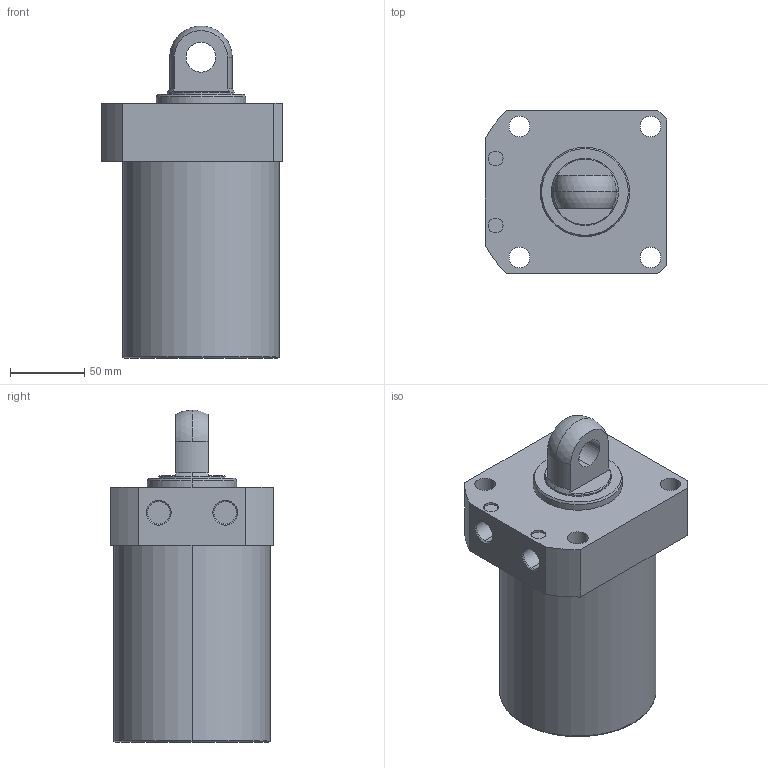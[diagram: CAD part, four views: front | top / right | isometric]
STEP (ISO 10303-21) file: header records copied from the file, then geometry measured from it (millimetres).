
FILE_DESCRIPTION (( 'STEP AP203' ), '1' );
FILE_NAME ('CLLR-105CP-085.STEP', '2019-12-18T08:02:25', ( '' ), ( '' ), 'SwSTEP 2.0', 'SolidWorks 2015', '' );
FILE_SCHEMA (( 'CONFIG_CONTROL_DESIGN' ));
Length unit declared in the file: millimetre
Products named in the file (1): CLLR-105CP-085
Bounding box: 122 x 110 x 223 mm (x, y, z)
Volume: 1669093.2 mm3; surface area: 101069.3 mm2
Topology: 1 solids, 1 shells, 59 faces, 139 edges, 89 vertices
Faces by surface type: cylinder 29, plane 18, cone 8, torus 2, sphere 2
Entity records: 1822 total; most frequent: DIRECTION 331, CARTESIAN_POINT 300, ORIENTED_EDGE 278, EDGE_CURVE 139, AXIS2_PLACEMENT_3D 136, VERTEX_POINT 89, CIRCLE 76, EDGE_LOOP 76
